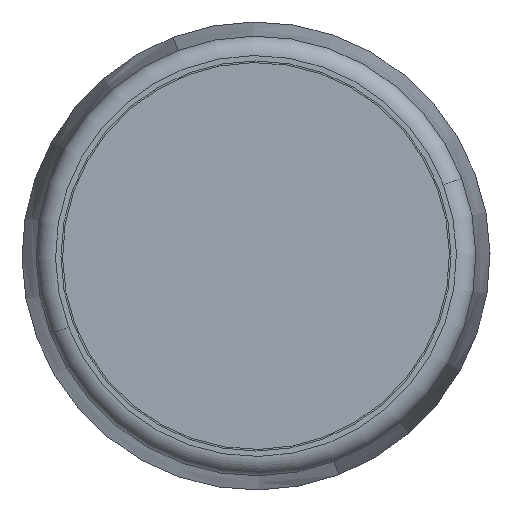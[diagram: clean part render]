
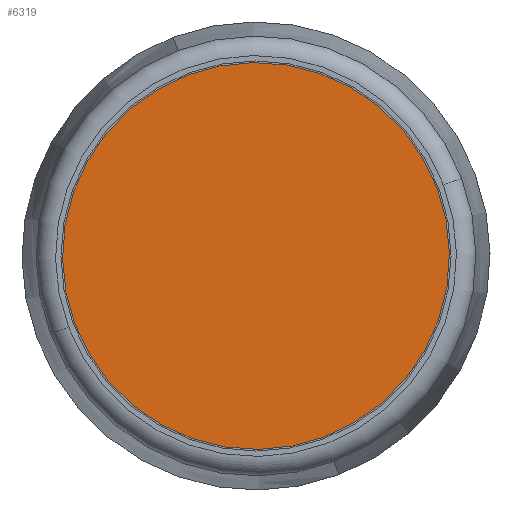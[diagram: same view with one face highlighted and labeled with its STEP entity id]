
A CAD part, front view. The second image highlights one B-rep face of the part: STEP entity #6319.
In plain terms, the highlighted planar face has unit normal (0, -1, 0).
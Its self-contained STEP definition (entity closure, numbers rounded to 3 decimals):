
#688 = FACE_OUTER_BOUND ( 'NONE', #10241, .T. ) ;
#1930 = EDGE_CURVE ( 'NONE', #10078, #3781, #3674, .T. ) ;
#2077 = CIRCLE ( 'NONE', #7881, 2.5 ) ;
#2812 = EDGE_CURVE ( 'NONE', #3781, #10078, #2077, .T. ) ;
#3452 = CARTESIAN_POINT ( 'NONE',  ( 0., 0.15, 0. ) ) ;
#3674 = CIRCLE ( 'NONE', #7380, 2.5 ) ;
#3781 = VERTEX_POINT ( 'NONE', #10802 ) ;
#4217 = AXIS2_PLACEMENT_3D ( 'NONE', #8871, #4250, #11554 ) ;
#4250 = DIRECTION ( 'NONE',  ( 0., 1., 0. ) ) ;
#4453 = DIRECTION ( 'NONE',  ( 0., 1., 0. ) ) ;
#5037 = DIRECTION ( 'NONE',  ( 0., 1., 0. ) ) ;
#5213 = ORIENTED_EDGE ( 'NONE', *, *, #2812, .F. ) ;
#5303 = PLANE ( 'NONE',  #4217 ) ;
#6319 = ADVANCED_FACE ( 'NONE', ( #688 ), #5303, .F. ) ;
#7261 = CARTESIAN_POINT ( 'NONE',  ( 0., 0.15, 0. ) ) ;
#7380 = AXIS2_PLACEMENT_3D ( 'NONE', #7261, #4453, #10655 ) ;
#7727 = DIRECTION ( 'NONE',  ( 0., 0., 1. ) ) ;
#7881 = AXIS2_PLACEMENT_3D ( 'NONE', #3452, #5037, #7727 ) ;
#8871 = CARTESIAN_POINT ( 'NONE',  ( -2.562, 0.15, -10. ) ) ;
#9470 = CARTESIAN_POINT ( 'NONE',  ( 0., 0.15, -2.5 ) ) ;
#10078 = VERTEX_POINT ( 'NONE', #9470 ) ;
#10241 = EDGE_LOOP ( 'NONE', ( #5213, #10521 ) ) ;
#10521 = ORIENTED_EDGE ( 'NONE', *, *, #1930, .F. ) ;
#10655 = DIRECTION ( 'NONE',  ( 0., 0., 1. ) ) ;
#10802 = CARTESIAN_POINT ( 'NONE',  ( 0., 0.15, 2.5 ) ) ;
#11554 = DIRECTION ( 'NONE',  ( 0., 0., 1. ) ) ;
